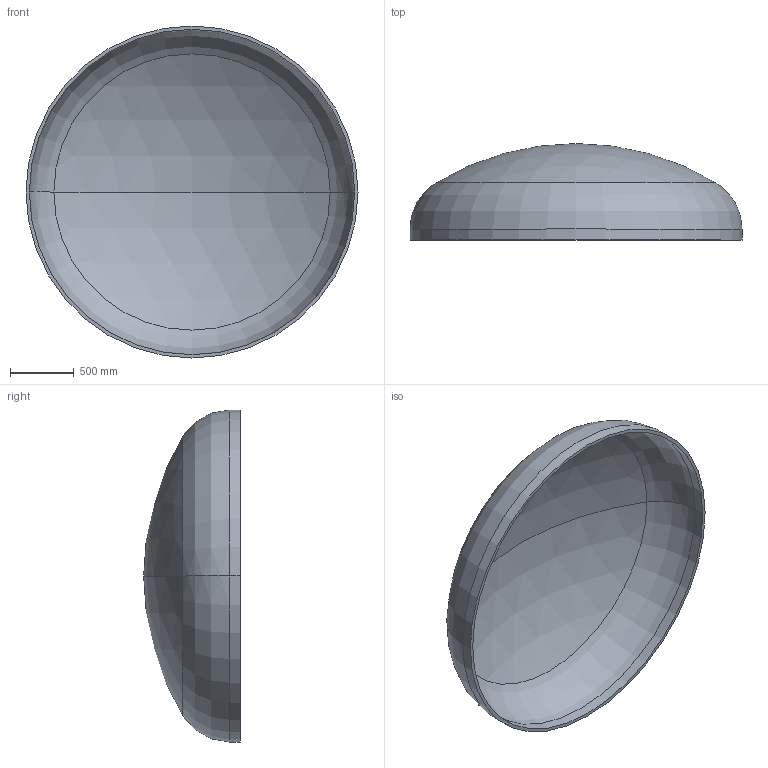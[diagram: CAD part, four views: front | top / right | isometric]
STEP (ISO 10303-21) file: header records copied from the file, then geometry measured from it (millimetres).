
FILE_DESCRIPTION (( 'STEP AP203' ), '1' );
FILE_NAME ('DIN 28013 Korbbogenform_-_Boden DIN 28013 - 2600 x 85 - I - s=26.step', '2016-07-01T16:02:33', ( '' ), ( '' ), 'SwSTEP 2.0', 'SolidWorks 2013', '' );
FILE_SCHEMA (( 'CONFIG_CONTROL_DESIGN' ));
Length unit declared in the file: millimetre
Products named in the file (1): DIN 28013 Korbbogenform_-_Boden DIN 28013 - 2600 x 85 - I - s=26
Bounding box: 2600 x 756.24 x 2600 mm (x, y, z)
Volume: 206508019.1 mm3; surface area: 16096890.2 mm2
Topology: 1 solids, 1 shells, 13 faces, 24 edges, 14 vertices
Faces by surface type: torus 4, cylinder 4, sphere 4, plane 1
Entity records: 407 total; most frequent: DIRECTION 72, CARTESIAN_POINT 52, ORIENTED_EDGE 48, AXIS2_PLACEMENT_3D 34, EDGE_CURVE 24, CIRCLE 20, EDGE_LOOP 14, VERTEX_POINT 14
